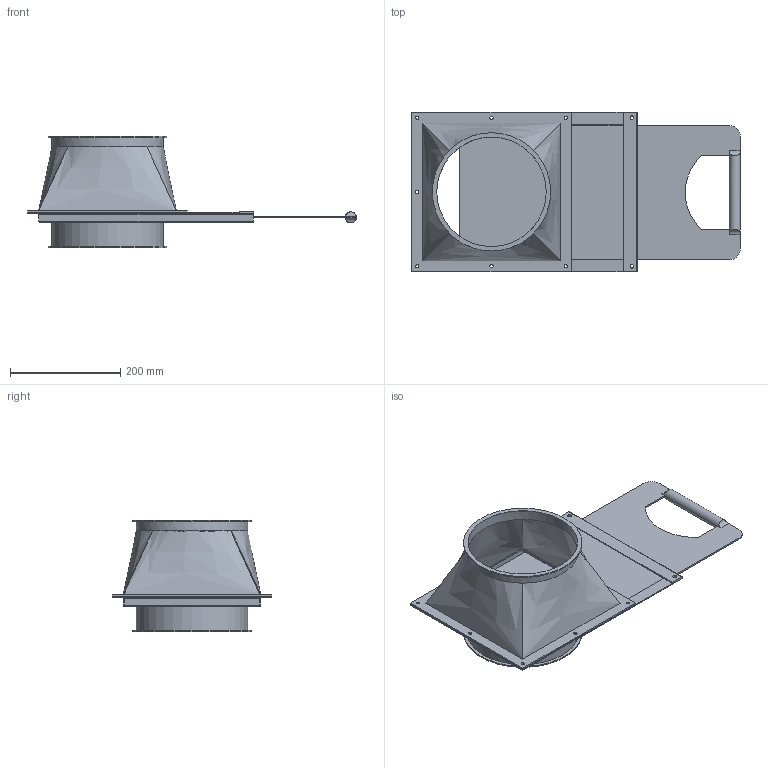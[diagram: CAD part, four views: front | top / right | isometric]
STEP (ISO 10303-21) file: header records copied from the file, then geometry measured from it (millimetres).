
FILE_DESCRIPTION((''),'2;1');
FILE_NAME('U:\Wolfgang\Marcel-3D\fertig\Kapitel 9\2021080.stp','2011-10-11T12:54:11',('iwienholt'),(''),'Autodesk Inventor 2010','Autodesk Inventor 2010','');
FILE_SCHEMA(('AUTOMOTIVE_DESIGN { 1 0 10303 214 1 1 1 1 }'));
Length unit declared in the file: millimetre
Products named in the file (4): 2021080; DN200-1; DN200-2; Schieberplatte DN200
Assembly tree (3 placements, depth 2):
  2021080
    DN200-1
    DN200-2
    Schieberplatte DN200
Bounding box: 597.13 x 290 x 202 mm (x, y, z)
Volume: 994302.4 mm3; surface area: 822421.5 mm2
Topology: 3 solids, 3 shells, 103 faces, 287 edges, 191 vertices
Faces by surface type: plane 56, bspline 25, cylinder 22
Full cylindrical faces by diameter (mm): 20 x1, 199 x2, 203 x3, 215 x2
Entity records: 4060 total; most frequent: CARTESIAN_POINT 1469, ORIENTED_EDGE 502, DIRECTION 469, EDGE_CURVE 251, VERTEX_POINT 180, EDGE_LOOP 171, AXIS2_PLACEMENT_3D 162, VECTOR 145
